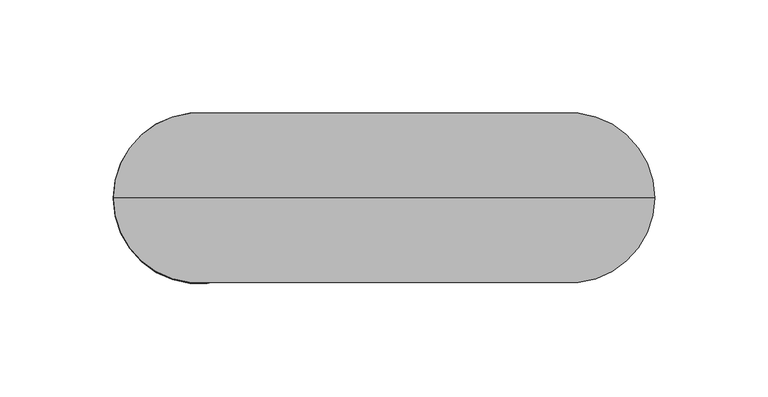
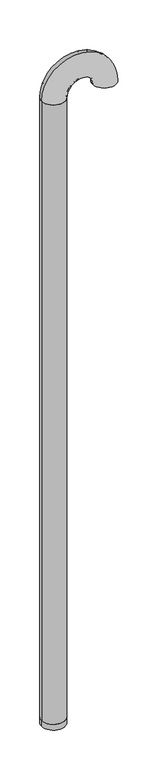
"""IFC4 building model written with IfcOpenShell, lengths in millimetres: pipe fitting geometry, Superdrain Vent Termianl : Superdrain Vent Termianl DN 75."""

from ifc_helpers import new_model, si_unit, point, frame, origin, origin_with_axes, origin_2d, place, context, project, spatial, circle_curve, ellipse_curve, trimmed, segment, composite_curve, outline, extrude, source, transform, mapped, element, save
from ifc_brep_helpers import plane_surface, revolved_surface, advanced_brep


def pipe_fitting_cccb87dc(model_context):
    return source(origin(), model_context, "Body", "SolidModel", [
        advanced_brep(
        [(37.5, 0.0, 2120.0), (-37.5, 0.0, 2120.0), (34.5, 0.0, 2120.0), (-34.5, 0.0, 2120.0), (126.0, 0.0, 2120.0), (201.0, 0.0, 2120.0), (129.0, 0.0, 2120.0), (198.0, 0.0, 2120.0)],
        [
            (0, 1, circle_curve(frame((0.0, 0.0, 2120.0), z_axis=(0.0, 0.0, -1.0), x_axis=(-1.0, 0.0, 0.0)), 37.5)),
            (1, 0, circle_curve(frame((0.0, 0.0, 2120.0), z_axis=(0.0, 0.0, -1.0), x_axis=(-1.0, 0.0, 0.0)), 37.5)),
            (2, 3, circle_curve(frame((0.0, 0.0, 2120.0), z_axis=(0.0, 0.0, 1.0), x_axis=(-1.0, 0.0, 0.0)), 34.5)),
            (3, 2, circle_curve(frame((0.0, 0.0, 2120.0), z_axis=(0.0, 0.0, 1.0), x_axis=(-1.0, 0.0, 0.0)), 34.5)),
            (4, 5, circle_curve(frame((163.5, 0.0, 2120.0), z_axis=(0.0, 0.0, -1.0), x_axis=(1.0, 0.0, 0.0)), 37.5)),
            (5, 4, circle_curve(frame((163.5, 0.0, 2120.0), z_axis=(0.0, 0.0, -1.0), x_axis=(1.0, 0.0, 0.0)), 37.5)),
            (6, 7, circle_curve(frame((163.5, 0.0, 2120.0), z_axis=(0.0, 0.0, 1.0), x_axis=(1.0, 0.0, 0.0)), 34.5)),
            (7, 6, circle_curve(frame((163.5, 0.0, 2120.0), z_axis=(0.0, 0.0, 1.0), x_axis=(1.0, 0.0, 0.0)), 34.5)),
            (5, 1, circle_curve(frame((81.75, 0.0, 2120.0), z_axis=(0.0, -1.0, 0.0), x_axis=(-1.0, 0.0, 0.0)), 119.25)),
            (0, 4, circle_curve(frame((81.75, 0.0, 2120.0), z_axis=(0.0, 1.0, 0.0), x_axis=(-1.0, 0.0, 0.0)), 44.25)),
            (7, 3, circle_curve(frame((81.75, 0.0, 2120.0), z_axis=(0.0, -1.0, 0.0), x_axis=(-1.0, 0.0, 0.0)), 116.25)),
            (2, 6, circle_curve(frame((81.75, 0.0, 2120.0), z_axis=(0.0, 1.0, 0.0), x_axis=(-1.0, 0.0, 0.0)), 47.25)),
        ],
        [
            plane_surface(frame((0.0, 0.0, 2120.0), z_axis=(0.0, 0.0, -1.0), x_axis=(0.0, -1.0, 0.0))),
            plane_surface(frame((163.5, 0.0, 2120.0), z_axis=(0.0, 0.0, -1.0), x_axis=(0.0, -1.0, 0.0))),
            revolved_surface(trimmed(ellipse_curve(frame((0.0, 0.0, 2120.0), z_axis=(0.0, 0.0, -1.0), x_axis=(-1.0, 0.0, 0.0)), 37.5, 37.5), [point((37.5, 0.0, 2120.0))], [point((-37.5, 0.0, 2120.0))], True, "CARTESIAN"), (81.75, 0.0, 2120.0), (0.0, 1.0, 0.0)),
            revolved_surface(trimmed(ellipse_curve(frame((0.0, 0.0, 2120.0), z_axis=(0.0, 0.0, -1.0), x_axis=(-1.0, 0.0, 0.0)), 37.5, 37.5), [point((-37.5, 0.0, 2120.0))], [point((37.5, 0.0, 2120.0))], True, "CARTESIAN"), (81.75, 0.0, 2120.0), (0.0, 1.0, 0.0)),
            revolved_surface(trimmed(ellipse_curve(frame((0.0, 0.0, 2120.0), z_axis=(0.0, 0.0, 1.0), x_axis=(-1.0, 0.0, 0.0)), 34.5, 34.5), [point((34.5, 0.0, 2120.0))], [point((-34.5, 0.0, 2120.0))], True, "CARTESIAN"), (81.75, 0.0, 2120.0), (0.0, 1.0, 0.0)),
            revolved_surface(trimmed(ellipse_curve(frame((0.0, 0.0, 2120.0), z_axis=(0.0, 0.0, 1.0), x_axis=(-1.0, 0.0, 0.0)), 34.5, 34.5), [point((-34.5, 0.0, 2120.0))], [point((34.5, 0.0, 2120.0))], True, "CARTESIAN"), (81.75, 0.0, 2120.0), (0.0, 1.0, 0.0)),
        ],
        [
            (0, [[1, 2], [3, 4]]),
            (1, [[5, 6], [7, 8]]),
            (2, [[9, -1, 10, -6]]),
            (3, [[-10, -2, -9, -5]]),
            (4, [[11, -3, 12, -8]]),
            (5, [[-12, -4, -11, -7]]),
        ],
    ),
        extrude(outline(composite_curve([segment(trimmed(circle_curve(origin_2d(), 37.5), [point((37.5, 0.0))], [point((-37.5, 0.0))], False, "CARTESIAN"), True, "CONTINUOUS"), segment(trimmed(circle_curve(origin_2d(), 37.5), [point((-37.5, 0.0))], [point((37.5, 0.0))], False, "CARTESIAN"), True, "CONTINUOUS")], self_intersect=False), holes=[composite_curve([segment(trimmed(circle_curve(origin_2d(), 34.5), [point((34.5, 0.0))], [point((-34.5, 0.0))], True, "CARTESIAN"), True, "CONTINUOUS"), segment(trimmed(circle_curve(origin_2d(), 34.5), [point((-34.5, 0.0))], [point((34.5, 0.0))], True, "CARTESIAN"), True, "CONTINUOUS")], self_intersect=False)]), frame((0.0, 0.0, 20.0), z_axis=(0.0, 0.0, 1.0), x_axis=(1.0, 0.0, 0.0)), (0.0, 0.0, 1.0), 2100.0),
        extrude(outline(composite_curve([segment(trimmed(circle_curve(origin_2d(), 37.5), [point((-37.5, 0.0))], [point((37.5, 0.0))], False, "CARTESIAN"), True, "CONTINUOUS"), segment(trimmed(circle_curve(origin_2d(), 37.5), [point((37.5, 0.0))], [point((-37.5, 0.0))], False, "CARTESIAN"), True, "CONTINUOUS")], self_intersect=False), holes=[composite_curve([segment(trimmed(circle_curve(origin_2d(), 34.5), [point((-34.5, 0.0))], [point((34.5, 0.0))], True, "CARTESIAN"), True, "CONTINUOUS"), segment(trimmed(circle_curve(origin_2d(), 34.5), [point((34.5, 0.0))], [point((-34.5, 0.0))], True, "CARTESIAN"), True, "CONTINUOUS")], self_intersect=False)]), origin_with_axes(), (0.0, 0.0, 1.0), 20.0),
    ])


if __name__ == "__main__":
    model = new_model("IFC4")
    model_context = context("Model", 3, world=origin())
    ifc_project = project(units=[si_unit("LENGTHUNIT", "METRE", prefix="MILLI")], contexts=[model_context])
    site = spatial("IfcSite", under=ifc_project)
    building = spatial("IfcBuilding", under=site)
    placement = place(None, origin())
    pipe_fitting_shape = pipe_fitting_cccb87dc(model_context)
    element("IfcPipeFitting", 1, ObjectType="Superdrain Vent Termianl : Superdrain Vent Termianl DN 75", at=placement, inside=building, context=model_context, shape_type="MappedRepresentation", body=[
        mapped(pipe_fitting_shape, transform((0.0, 0.0, 0.0), x_axis=(1.0, 0.0, 0.0), y_axis=(0.0, 1.0, 0.0), z_axis=(0.0, 0.0, 1.0))),
    ])
    save(model, "model.ifc")
